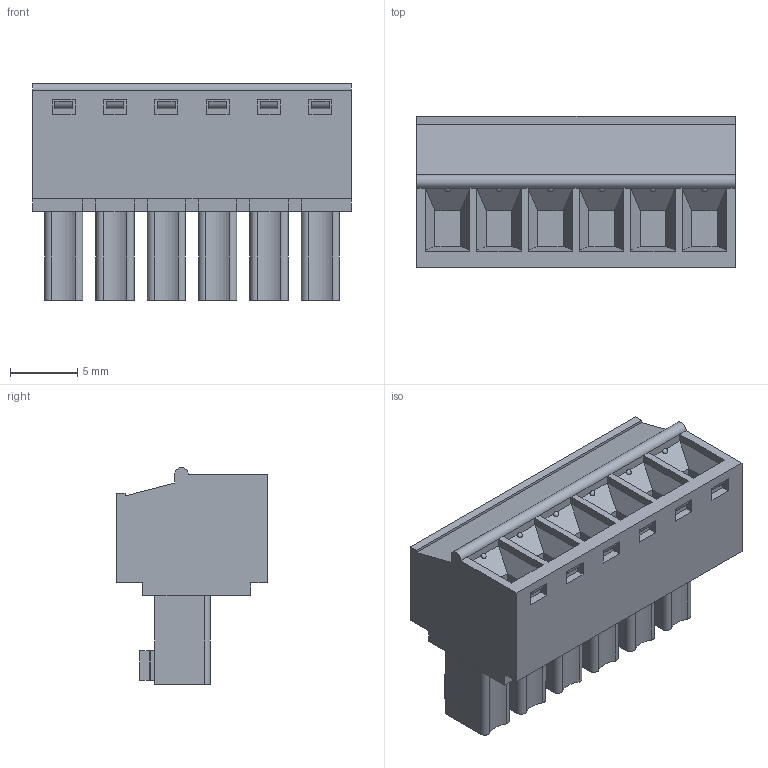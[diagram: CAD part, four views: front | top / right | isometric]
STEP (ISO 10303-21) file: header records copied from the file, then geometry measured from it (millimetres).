
FILE_DESCRIPTION(('FreeCAD Model'),'2;1');
FILE_NAME('Open CASCADE Shape Model','2023-05-24T15:04:17',('Author'),( ''),'Open CASCADE STEP processor 7.6','FreeCAD','Unknown');
FILE_SCHEMA(('AUTOMOTIVE_DESIGN { 1 0 10303 214 1 1 1 1 }'));
Length unit declared in the file: millimetre
Products named in the file (1): BR7F2-06
Bounding box: 23.65 x 11.2 x 16.1 mm (x, y, z)
Volume: 2351.1 mm3; surface area: 2305.7 mm2
Topology: 1 solids, 1 shells, 541 faces, 1313 edges, 816 vertices
Faces by surface type: plane 324, cylinder 121, cone 60, torus 24, sphere 12
Entity records: 35275 total; most frequent: CARTESIAN_POINT 8625, DIRECTION 5104, LINE 3097, VECTOR 3097, ORIENTED_EDGE 2602, PCURVE 2602, DEFINITIONAL_REPRESENTATION 2602, EDGE_CURVE 1301
